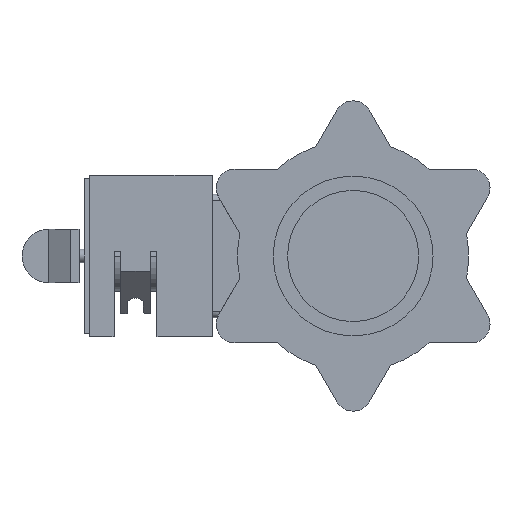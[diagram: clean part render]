
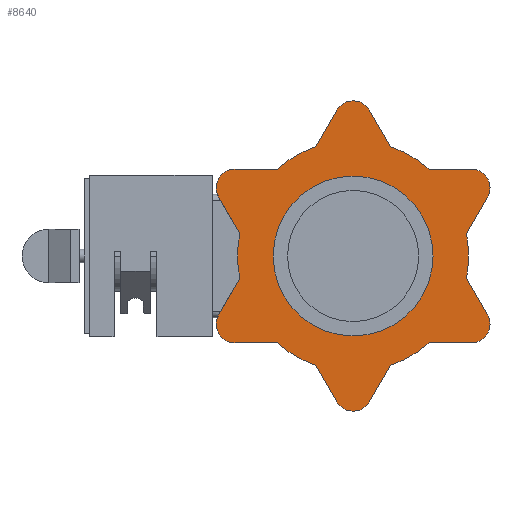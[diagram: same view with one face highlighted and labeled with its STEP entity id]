
A CAD part, left-side view. The second image highlights one B-rep face of the part: STEP entity #8640.
In plain terms, the highlighted planar face has unit normal (-1, 0, 0) as drawn and (0, -1, 0) by its records, which use the part's own axes.
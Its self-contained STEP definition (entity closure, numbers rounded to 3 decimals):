
#200=CARTESIAN_POINT('',(84.375,-135.5,16.641));
#210=VERTEX_POINT('',#200);
#240=CARTESIAN_POINT('',(74.767,-135.5,0.));
#250=DIRECTION('',(0.5,0.,0.866));
#260=VECTOR('',#250,1.);
#270=LINE('',#240,#260);
#280=CARTESIAN_POINT('',(100.026,-135.5,43.75));
#290=VERTEX_POINT('',#280);
#300=EDGE_CURVE('',#210,#290,#270,.T.);
#600=CARTESIAN_POINT('',(27.776,-135.5,81.391));
#610=VERTEX_POINT('',#600);
#640=CARTESIAN_POINT('',(74.767,-135.5,0.));
#650=DIRECTION('',(-0.5,0.,0.866));
#660=VECTOR('',#650,1.);
#670=LINE('',#640,#660);
#680=CARTESIAN_POINT('',(12.124,-135.5,108.5));
#690=VERTEX_POINT('',#680);
#700=EDGE_CURVE('',#610,#690,#670,.T.);
#1090=CARTESIAN_POINT('',(-100.026,-135.5,
43.75));
#1100=VERTEX_POINT('',#1090);
#1130=CARTESIAN_POINT('',(-74.767,-135.5,0.));
#1140=DIRECTION('',(0.5,0.,
-0.866));
#1150=VECTOR('',#1140,1.);
#1160=LINE('',#1130,#1150);
#1170=CARTESIAN_POINT('',(-84.375,-135.5,
16.641));
#1180=VERTEX_POINT('',#1170);
#1190=EDGE_CURVE('',#1100,#1180,#1160,.T.);
#1900=CARTESIAN_POINT('',(87.902,-135.5,-64.75));
#1910=VERTEX_POINT('',#1900);
#1940=CARTESIAN_POINT('',(87.902,-135.5,-50.75));
#1950=DIRECTION('',(0.,1.,0.));
#1960=DIRECTION('',(0.,0.,1.));
#1970=AXIS2_PLACEMENT_3D('',#1940,#1950,#1960);
#1980=CIRCLE('',#1970,14.);
#1990=CARTESIAN_POINT('',(100.026,-135.5,-43.75));
#2000=VERTEX_POINT('',#1990);
#2010=EDGE_CURVE('',#2000,#1910,#1980,.T.);
#2290=CARTESIAN_POINT('',(56.599,-135.5,-64.75));
#2300=VERTEX_POINT('',#2290);
#2330=CARTESIAN_POINT('',(0.,-135.5,-64.75));
#2340=DIRECTION('',(1.,0.,0.));
#2350=VECTOR('',#2340,1.);
#2360=LINE('',#2330,#2350);
#2370=EDGE_CURVE('',#2300,#1910,#2360,.T.);
#3460=CARTESIAN_POINT('',(-12.124,-135.5,108.5));
#3470=VERTEX_POINT('',#3460);
#3500=CARTESIAN_POINT('',(-74.767,-135.5,0.));
#3510=DIRECTION('',(-0.5,0.,-0.866));
#3520=VECTOR('',#3510,1.);
#3530=LINE('',#3500,#3520);
#3540=CARTESIAN_POINT('',(-27.776,-135.5,81.391));
#3550=VERTEX_POINT('',#3540);
#3560=EDGE_CURVE('',#3470,#3550,#3530,.T.);
#3820=CARTESIAN_POINT('',(87.902,-135.5,50.75));
#3830=DIRECTION('',(0.,-1.,0.));
#3840=DIRECTION('',(0.,0.,-1.));
#3850=AXIS2_PLACEMENT_3D('',#3820,#3830,#3840);
#3860=CIRCLE('',#3850,14.);
#3870=CARTESIAN_POINT('',(87.902,-135.5,64.75));
#3880=VERTEX_POINT('',#3870);
#3890=EDGE_CURVE('',#290,#3880,#3860,.T.);
#4670=CARTESIAN_POINT('',(0.,-135.5,101.5));
#4680=DIRECTION('',(0.,-1.,0.));
#4690=DIRECTION('',(0.,0.,-1.));
#4700=AXIS2_PLACEMENT_3D('',#4670,#4680,#4690);
#4710=CIRCLE('',#4700,14.);
#4720=EDGE_CURVE('',#690,#3470,#4710,.T.);
#5230=CARTESIAN_POINT('',(0.,-135.5,64.75));
#5240=DIRECTION('',(-1.,0.,0.));
#5250=VECTOR('',#5240,1.);
#5260=LINE('',#5230,#5250);
#5270=CARTESIAN_POINT('',(56.599,-135.5,64.75));
#5280=VERTEX_POINT('',#5270);
#5290=EDGE_CURVE('',#3880,#5280,#5260,.T.);
#6120=CARTESIAN_POINT('',(-100.026,-135.5,-43.75));
#6130=VERTEX_POINT('',#6120);
#6160=CARTESIAN_POINT('',(-87.902,-135.5,-50.75));
#6170=DIRECTION('',(0.,-1.,0.));
#6180=DIRECTION('',(0.,0.,-1.));
#6190=AXIS2_PLACEMENT_3D('',#6160,#6170,#6180);
#6200=CIRCLE('',#6190,14.);
#6210=CARTESIAN_POINT('',(-87.902,-135.5,-64.75));
#6220=VERTEX_POINT('',#6210);
#6230=EDGE_CURVE('',#6130,#6220,#6200,.T.);
#6390=CARTESIAN_POINT('',(-74.767,-135.5,0.));
#6400=DIRECTION('',(-0.5,0.,
-0.866));
#6410=VECTOR('',#6400,1.);
#6420=LINE('',#6390,#6410);
#6430=CARTESIAN_POINT('',(-84.375,-135.5,
-16.641));
#6440=VERTEX_POINT('',#6430);
#6450=EDGE_CURVE('',#6440,#6130,#6420,.T.);
#6880=CARTESIAN_POINT('',(0.,-135.5,-64.75));
#6890=DIRECTION('',(1.,0.,0.));
#6900=VECTOR('',#6890,1.);
#6910=LINE('',#6880,#6900);
#6920=CARTESIAN_POINT('',(-56.599,-135.5,
-64.75));
#6930=VERTEX_POINT('',#6920);
#6940=EDGE_CURVE('',#6220,#6930,#6910,.T.);
#7240=CARTESIAN_POINT('',(-56.599,-135.5,64.75));
#7250=VERTEX_POINT('',#7240);
#7280=CARTESIAN_POINT('',(0.,-135.5,64.75));
#7290=DIRECTION('',(-1.,0.,0.));
#7300=VECTOR('',#7290,1.);
#7310=LINE('',#7280,#7300);
#7320=CARTESIAN_POINT('',(-87.902,-135.5,64.75));
#7330=VERTEX_POINT('',#7320);
#7340=EDGE_CURVE('',#7250,#7330,#7310,.T.);
#7450=CARTESIAN_POINT('',(0.,-135.5,
-115.5));
#7460=DIRECTION('',(0.,1.,0.));
#7470=DIRECTION('',(0.,0.,1.));
#7480=AXIS2_PLACEMENT_3D('',#7450,#7460,#7470);
#7490=PLANE('',#7480);
#7500=CARTESIAN_POINT('',(0.,-135.5,0.));
#7510=DIRECTION('',(0.,-1.,0.));
#7520=DIRECTION('',(0.,0.,-1.));
#7530=AXIS2_PLACEMENT_3D('',#7500,#7510,#7520);
#7540=CIRCLE('',#7530,86.);
#7550=EDGE_CURVE('',#3550,#7250,#7540,.T.);
#7560=ORIENTED_EDGE('',*,*,#7550,.T.);
#7570=ORIENTED_EDGE('',*,*,#3560,.T.);
#7580=ORIENTED_EDGE('',*,*,#4720,.T.);
#7590=ORIENTED_EDGE('',*,*,#700,.T.);
#7600=CARTESIAN_POINT('',(0.,-135.5,0.));
#7610=DIRECTION('',(0.,-1.,0.));
#7620=DIRECTION('',(0.,0.,-1.));
#7630=AXIS2_PLACEMENT_3D('',#7600,#7610,#7620);
#7640=CIRCLE('',#7630,86.);
#7650=EDGE_CURVE('',#5280,#610,#7640,.T.);
#7660=ORIENTED_EDGE('',*,*,#7650,.T.);
#7670=ORIENTED_EDGE('',*,*,#5290,.T.);
#7680=ORIENTED_EDGE('',*,*,#3890,.T.);
#7690=ORIENTED_EDGE('',*,*,#300,.T.);
#7700=CARTESIAN_POINT('',(0.,-135.5,0.));
#7710=DIRECTION('',(0.,-1.,0.));
#7720=DIRECTION('',(0.,0.,-1.));
#7730=AXIS2_PLACEMENT_3D('',#7700,#7710,#7720);
#7740=CIRCLE('',#7730,86.);
#7750=CARTESIAN_POINT('',(84.375,-135.5,-16.641));
#7760=VERTEX_POINT('',#7750);
#7770=EDGE_CURVE('',#7760,#210,#7740,.T.);
#7780=ORIENTED_EDGE('',*,*,#7770,.T.);
#7790=CARTESIAN_POINT('',(74.767,-135.5,0.));
#7800=DIRECTION('',(-0.5,0.,0.866));
#7810=VECTOR('',#7800,1.);
#7820=LINE('',#7790,#7810);
#7830=EDGE_CURVE('',#2000,#7760,#7820,.T.);
#7840=ORIENTED_EDGE('',*,*,#7830,.T.);
#7850=ORIENTED_EDGE('',*,*,#2010,.F.);
#7860=ORIENTED_EDGE('',*,*,#2370,.T.);
#7870=CARTESIAN_POINT('',(0.,-135.5,0.));
#7880=DIRECTION('',(0.,-1.,0.));
#7890=DIRECTION('',(0.,0.,-1.));
#7900=AXIS2_PLACEMENT_3D('',#7870,#7880,#7890);
#7910=CIRCLE('',#7900,86.);
#7920=CARTESIAN_POINT('',(27.776,-135.5,-81.391));
#7930=VERTEX_POINT('',#7920);
#7940=EDGE_CURVE('',#7930,#2300,#7910,.T.);
#7950=ORIENTED_EDGE('',*,*,#7940,.T.);
#7960=CARTESIAN_POINT('',(74.767,-135.5,0.));
#7970=DIRECTION('',(0.5,0.,0.866));
#7980=VECTOR('',#7970,1.);
#7990=LINE('',#7960,#7980);
#8000=CARTESIAN_POINT('',(12.124,-135.5,-108.5));
#8010=VERTEX_POINT('',#8000);
#8020=EDGE_CURVE('',#8010,#7930,#7990,.T.);
#8030=ORIENTED_EDGE('',*,*,#8020,.T.);
#8040=CARTESIAN_POINT('',(0.,-135.5,-101.5
));
#8050=DIRECTION('',(0.,1.,0.));
#8060=DIRECTION('',(0.,0.,1.));
#8070=AXIS2_PLACEMENT_3D('',#8040,#8050,#8060);
#8080=CIRCLE('',#8070,14.);
#8090=CARTESIAN_POINT('',(-12.124,-135.5,-108.5));
#8100=VERTEX_POINT('',#8090);
#8110=EDGE_CURVE('',#8010,#8100,#8080,.T.);
#8120=ORIENTED_EDGE('',*,*,#8110,.F.);
#8130=CARTESIAN_POINT('',(-74.767,-135.5,0.));
#8140=DIRECTION('',(0.5,0.,-0.866));
#8150=VECTOR('',#8140,1.);
#8160=LINE('',#8130,#8150);
#8170=CARTESIAN_POINT('',(-27.776,-135.5,
-81.391));
#8180=VERTEX_POINT('',#8170);
#8190=EDGE_CURVE('',#8180,#8100,#8160,.T.);
#8200=ORIENTED_EDGE('',*,*,#8190,.T.);
#8210=CARTESIAN_POINT('',(0.,-135.5,
0.));
#8220=DIRECTION('',(0.,1.,0.));
#8230=DIRECTION('',(0.,0.,1.));
#8240=AXIS2_PLACEMENT_3D('',#8210,#8220,#8230);
#8250=CIRCLE('',#8240,86.);
#8260=EDGE_CURVE('',#8180,#6930,#8250,.T.);
#8270=ORIENTED_EDGE('',*,*,#8260,.F.);
#8280=ORIENTED_EDGE('',*,*,#6940,.T.);
#8290=ORIENTED_EDGE('',*,*,#6230,.T.);
#8300=ORIENTED_EDGE('',*,*,#6450,.T.);
#8310=CARTESIAN_POINT('',(0.,-135.5,0.));
#8320=DIRECTION('',(0.,-1.,0.));
#8330=DIRECTION('',(0.,0.,-1.));
#8340=AXIS2_PLACEMENT_3D('',#8310,#8320,#8330);
#8350=CIRCLE('',#8340,86.);
#8360=EDGE_CURVE('',#1180,#6440,#8350,.T.);
#8370=ORIENTED_EDGE('',*,*,#8360,.T.);
#8380=ORIENTED_EDGE('',*,*,#1190,.T.);
#8390=CARTESIAN_POINT('',(-87.902,-135.5,50.75));
#8400=DIRECTION('',(0.,-1.,0.));
#8410=DIRECTION('',(0.,0.,-1.));
#8420=AXIS2_PLACEMENT_3D('',#8390,#8400,#8410);
#8430=CIRCLE('',#8420,14.);
#8440=EDGE_CURVE('',#7330,#1100,#8430,.T.);
#8450=ORIENTED_EDGE('',*,*,#8440,.T.);
#8460=ORIENTED_EDGE('',*,*,#7340,.T.);
#8470=EDGE_LOOP('',(#8460,#8450,#8380,#8370,#8300,#8290,#8280,#8270,
#8200,#8120,#8030,#7950,#7860,#7850,#7840,#7780,#7690,#7680,#7670,#7660,
#7590,#7580,#7570,#7560));
#8480=FACE_OUTER_BOUND('',#8470,.T.);
#8490=CARTESIAN_POINT('',(0.,-135.5,
0.));
#8500=DIRECTION('',(0.,-1.,0.));
#8510=DIRECTION('',(0.,0.,1.));
#8520=AXIS2_PLACEMENT_3D('',#8490,#8500,#8510);
#8530=CIRCLE('',#8520,50.8);
#8540=CARTESIAN_POINT('',(0.,-135.5,50.8));
#8550=VERTEX_POINT('',#8540);
#8560=CARTESIAN_POINT('',(0.,-135.5,-50.8));
#8570=VERTEX_POINT('',#8560);
#8580=EDGE_CURVE('',#8550,#8570,#8530,.T.);
#8590=ORIENTED_EDGE('',*,*,#8580,.F.);
#8600=EDGE_CURVE('',#8570,#8550,#8530,.T.);
#8610=ORIENTED_EDGE('',*,*,#8600,.F.);
#8620=EDGE_LOOP('',(#8610,#8590));
#8630=FACE_BOUND('',#8620,.T.);
#8640=ADVANCED_FACE('',(#8480,#8630),#7490,.F.);
